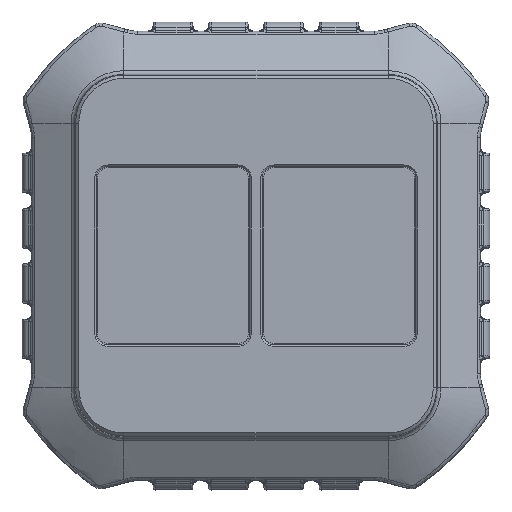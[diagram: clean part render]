
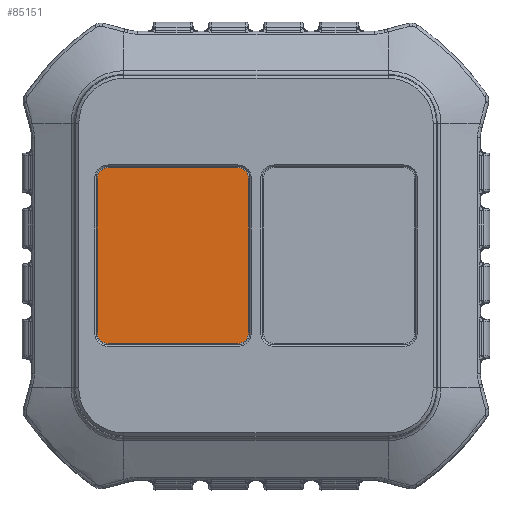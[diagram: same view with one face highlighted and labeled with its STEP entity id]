
A CAD part, top view. The second image highlights one B-rep face of the part: STEP entity #85151.
In plain terms, the highlighted planar face has unit normal (0, 0, 1).
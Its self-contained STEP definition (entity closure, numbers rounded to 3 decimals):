
#104 = CARTESIAN_POINT ( 'NONE',  ( -3., 25.5, 3.25 ) ) ;
#520 = VECTOR ( 'NONE', #64576, 1000. ) ;
#541 = CIRCLE ( 'NONE', #71456, 1.8 ) ;
#1705 = DIRECTION ( 'NONE',  ( 1., 0., 0. ) ) ;
#5794 = DIRECTION ( 'NONE',  ( -1., 0., 0. ) ) ;
#6597 = CARTESIAN_POINT ( 'NONE',  ( -3., 23.7, 3.25 ) ) ;
#6995 = CARTESIAN_POINT ( 'NONE',  ( -25.8, 25.5, 3.25 ) ) ;
#7031 = VERTEX_POINT ( 'NONE', #6995 ) ;
#7420 = AXIS2_PLACEMENT_3D ( 'NONE', #81400, #20540, #40969 ) ;
#8800 = CARTESIAN_POINT ( 'NONE',  ( -3., 52.3, 3.25 ) ) ;
#8860 = DIRECTION ( 'NONE',  ( 1., 0., 0. ) ) ;
#10422 = LINE ( 'NONE', #70808, #520 ) ;
#12141 = ORIENTED_EDGE ( 'NONE', *, *, #54625, .T. ) ;
#12431 = LINE ( 'NONE', #86591, #67824 ) ;
#14250 = DIRECTION ( 'NONE',  ( 0., 0., 1. ) ) ;
#18627 = ORIENTED_EDGE ( 'NONE', *, *, #72861, .T. ) ;
#20062 = ORIENTED_EDGE ( 'NONE', *, *, #26127, .T. ) ;
#20540 = DIRECTION ( 'NONE',  ( 0., 0., 1. ) ) ;
#25546 = DIRECTION ( 'NONE',  ( 0., 0., 1. ) ) ;
#25990 = DIRECTION ( 'NONE',  ( 1., 0., 0. ) ) ;
#26127 = EDGE_CURVE ( 'NONE', #30502, #49720, #75294, .T. ) ;
#30502 = VERTEX_POINT ( 'NONE', #36924 ) ;
#33351 = ORIENTED_EDGE ( 'NONE', *, *, #33873, .T. ) ;
#33873 = EDGE_CURVE ( 'NONE', #46387, #72222, #12431, .T. ) ;
#34634 = DIRECTION ( 'NONE',  ( 1., 0., 0. ) ) ;
#35506 = AXIS2_PLACEMENT_3D ( 'NONE', #83891, #57222, #8860 ) ;
#36924 = CARTESIAN_POINT ( 'NONE',  ( -24., 23.7, 3.25 ) ) ;
#37666 = VECTOR ( 'NONE', #44738, 1000. ) ;
#38481 = CARTESIAN_POINT ( 'NONE',  ( -1.2, 52.3, 3.25 ) ) ;
#39777 = CARTESIAN_POINT ( 'NONE',  ( -25.8, 23.7, 3.25 ) ) ;
#40969 = DIRECTION ( 'NONE',  ( 1., 0., 0. ) ) ;
#41600 = FACE_OUTER_BOUND ( 'NONE', #79062, .T. ) ;
#41696 = EDGE_CURVE ( 'NONE', #7031, #30502, #64125, .T. ) ;
#42323 = ORIENTED_EDGE ( 'NONE', *, *, #49011, .T. ) ;
#42407 = EDGE_CURVE ( 'NONE', #77425, #46387, #541, .T. ) ;
#43630 = AXIS2_PLACEMENT_3D ( 'NONE', #104, #14250, #34634 ) ;
#44738 = DIRECTION ( 'NONE',  ( 0., 1., 0. ) ) ;
#46387 = VERTEX_POINT ( 'NONE', #8800 ) ;
#49011 = EDGE_CURVE ( 'NONE', #72222, #84407, #68125, .T. ) ;
#49565 = CARTESIAN_POINT ( 'NONE',  ( -1.2, 25.5, 3.25 ) ) ;
#49720 = VERTEX_POINT ( 'NONE', #6597 ) ;
#51952 = VERTEX_POINT ( 'NONE', #49565 ) ;
#52652 = DIRECTION ( 'NONE',  ( 1., 0., 0. ) ) ;
#53548 = EDGE_CURVE ( 'NONE', #51952, #77425, #66450, .T. ) ;
#54469 = PLANE ( 'NONE',  #59927 ) ;
#54625 = EDGE_CURVE ( 'NONE', #49720, #51952, #62083, .T. ) ;
#56024 = CARTESIAN_POINT ( 'NONE',  ( -24., 52.3, 3.25 ) ) ;
#57222 = DIRECTION ( 'NONE',  ( 0., 0., 1. ) ) ;
#59309 = CARTESIAN_POINT ( 'NONE',  ( -3., 50.5, 3.25 ) ) ;
#59927 = AXIS2_PLACEMENT_3D ( 'NONE', #62472, #62046, #1705 ) ;
#61138 = CARTESIAN_POINT ( 'NONE',  ( -25.8, 50.5, 3.25 ) ) ;
#61679 = ORIENTED_EDGE ( 'NONE', *, *, #53548, .T. ) ;
#62046 = DIRECTION ( 'NONE',  ( 0., 0., 1. ) ) ;
#62083 = CIRCLE ( 'NONE', #43630, 1.8 ) ;
#62472 = CARTESIAN_POINT ( 'NONE',  ( -13.5, 38., 3.25 ) ) ;
#64125 = CIRCLE ( 'NONE', #7420, 1.8 ) ;
#64576 = DIRECTION ( 'NONE',  ( 0., -1., 0. ) ) ;
#64837 = ORIENTED_EDGE ( 'NONE', *, *, #42407, .T. ) ;
#66450 = LINE ( 'NONE', #38481, #37666 ) ;
#67824 = VECTOR ( 'NONE', #5794, 1000. ) ;
#68125 = CIRCLE ( 'NONE', #35506, 1.8 ) ;
#70808 = CARTESIAN_POINT ( 'NONE',  ( -25.8, 52.3, 3.25 ) ) ;
#71456 = AXIS2_PLACEMENT_3D ( 'NONE', #59309, #25546, #52652 ) ;
#72222 = VERTEX_POINT ( 'NONE', #56024 ) ;
#72861 = EDGE_CURVE ( 'NONE', #84407, #7031, #10422, .T. ) ;
#75294 = LINE ( 'NONE', #39777, #75973 ) ;
#75973 = VECTOR ( 'NONE', #25990, 1000. ) ;
#76130 = ORIENTED_EDGE ( 'NONE', *, *, #41696, .T. ) ;
#77425 = VERTEX_POINT ( 'NONE', #82694 ) ;
#79062 = EDGE_LOOP ( 'NONE', ( #18627, #76130, #20062, #12141, #61679, #64837, #33351, #42323 ) ) ;
#81400 = CARTESIAN_POINT ( 'NONE',  ( -24., 25.5, 3.25 ) ) ;
#82694 = CARTESIAN_POINT ( 'NONE',  ( -1.2, 50.5, 3.25 ) ) ;
#83891 = CARTESIAN_POINT ( 'NONE',  ( -24., 50.5, 3.25 ) ) ;
#84407 = VERTEX_POINT ( 'NONE', #61138 ) ;
#85151 = ADVANCED_FACE ( 'NONE', ( #41600 ), #54469, .T. ) ;
#86591 = CARTESIAN_POINT ( 'NONE',  ( -25.8, 52.3, 3.25 ) ) ;
